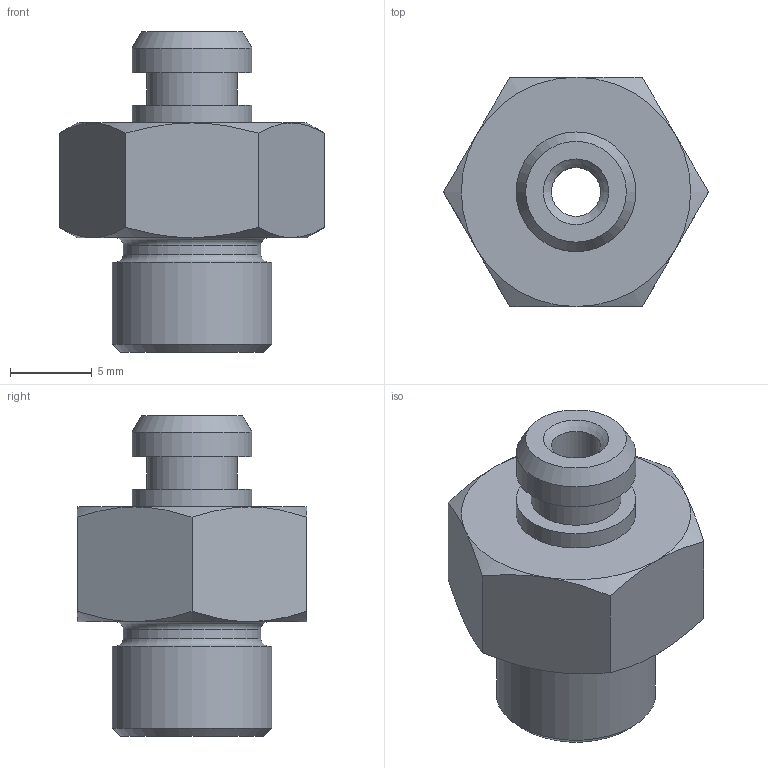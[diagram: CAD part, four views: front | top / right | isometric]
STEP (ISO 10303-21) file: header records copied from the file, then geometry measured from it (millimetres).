
FILE_DESCRIPTION((''),'2;1');
FILE_NAME('K:\Technik\CAD-Daten\Vakuumsauger\270_\270.095\270.095.stp','2007-11-29T10:32:41',('MOswald'),(''),'Autodesk Inventor 2008','Autodesk Inventor 2008','');
FILE_SCHEMA(('AUTOMOTIVE_DESIGN { 1 0 10303 214 1 1 1 1 }'));
Length unit declared in the file: millimetre
Products named in the file (1): 270
Bounding box: 16.17 x 14 x 19.57 mm (x, y, z)
Volume: 1723.3 mm3; surface area: 1195.5 mm2
Topology: 1 solids, 1 shells, 37 faces, 73 edges, 43 vertices
Faces by surface type: cone 16, plane 13, cylinder 5, torus 2, bspline 1
Full cylindrical faces by diameter (mm): 5.5 x1, 7.3 x2, 8.4 x1, 9.73 x1
Entity records: 891 total; most frequent: CARTESIAN_POINT 205, DIRECTION 140, ORIENTED_EDGE 120, AXIS2_PLACEMENT_3D 67, EDGE_CURVE 60, EDGE_LOOP 56, VERTEX_POINT 42, FACE_OUTER_BOUND 37
